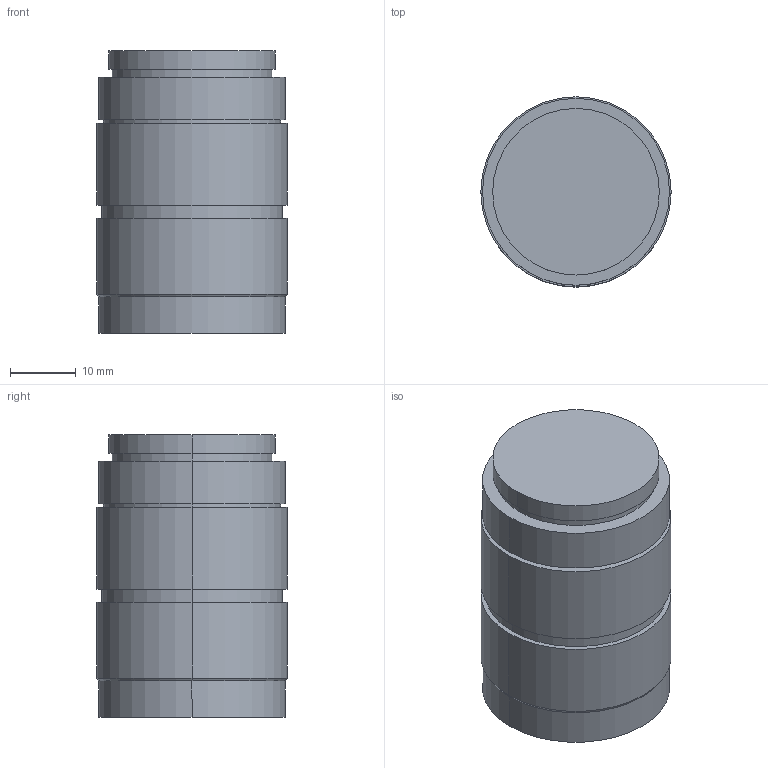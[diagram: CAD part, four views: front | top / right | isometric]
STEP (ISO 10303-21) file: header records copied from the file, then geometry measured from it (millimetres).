
FILE_DESCRIPTION (( 'STEP AP214' ), '1' );
FILE_NAME ('TF25DA.STEP', '2017-09-15T06:49:41', ( '富士フイルム株式会社' ), ( '富士フイルム株式会社' ), 'SwSTEP 2.0', 'SolidWorks 2014', '' );
FILE_SCHEMA (( 'AUTOMOTIVE_DESIGN' ));
Length unit declared in the file: millimetre
Products named in the file (1): TF25DA
Bounding box: 29 x 29 x 43.01 mm (x, y, z)
Volume: 25052.4 mm3; surface area: 6332 mm2
Topology: 1 solids, 1 shells, 56 faces, 112 edges, 69 vertices
Faces by surface type: cylinder 30, cone 12, plane 12, sphere 2
Entity records: 1504 total; most frequent: DIRECTION 296, CARTESIAN_POINT 238, ORIENTED_EDGE 224, AXIS2_PLACEMENT_3D 127, EDGE_CURVE 112, CIRCLE 70, VERTEX_POINT 69, EDGE_LOOP 67
